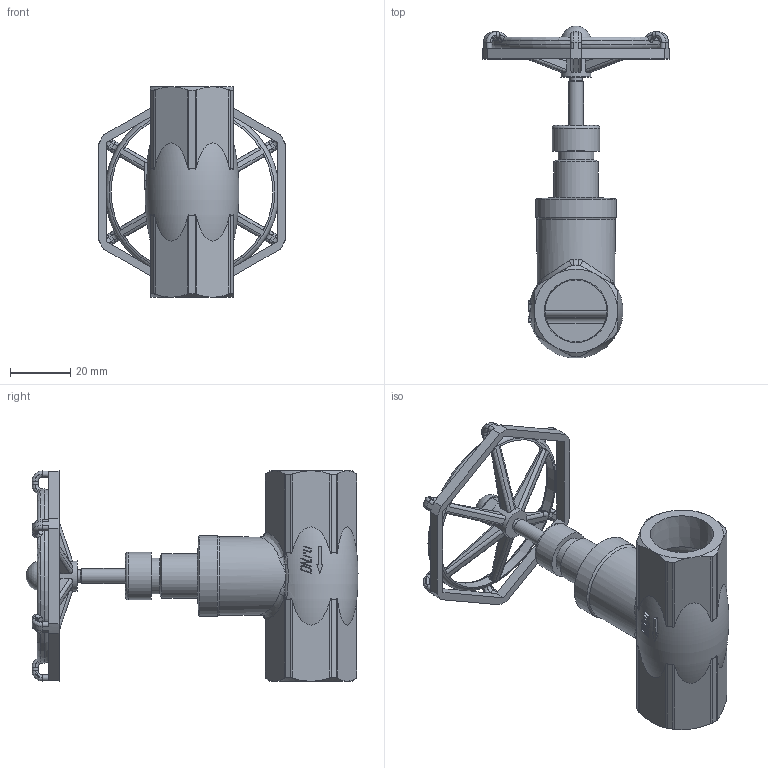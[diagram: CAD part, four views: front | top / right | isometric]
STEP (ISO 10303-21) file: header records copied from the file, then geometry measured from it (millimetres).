
FILE_DESCRIPTION(('STEP AP242'), '1');
FILE_NAME('Äó20', '', ('UNSPECIFIED'), ('UNSPECIFIED'), 'C3D Converter', 'C3D Toolkit', '');
FILE_SCHEMA(('AP242_MANAGED_MODEL_BASED_3D_ENGINEERING_MIM_LF { 1 0 10303 442 1 1 4 }'));
Length unit declared in the file: millimetre
Products named in the file (1): VSO3131M-1W-T-S
Bounding box: 62.35 x 110.65 x 70 mm (x, y, z)
Volume: 35688.1 mm3; surface area: 28984.3 mm2
Topology: 1 solids, 2 shells, 492 faces, 1279 edges, 788 vertices
Faces by surface type: plane 172, bspline 101, cylinder 88, extrusion 57, torus 43, cone 28, revolution 2, sphere 1
Full cylindrical faces by diameter (mm): 3 x1, 4 x1, 5 x2, 7 x1, 9.263 x2, 10 x1, 10.119 x1, 11.894 x1, 13.528 x1, 14.949 x1, 15.894 x1, 20 x1, 22 x1, 26 x1, 27 x1, 58 x1
Entity records: 29915 total; most frequent: CARTESIAN_POINT 16705, ORIENTED_EDGE 2472, DIRECTION 1711, EDGE_CURVE 1236, VERTEX_POINT 787, AXIS2_PLACEMENT_3D 656, B_SPLINE_CURVE_WITH_KNOTS 622, EDGE_LOOP 559
